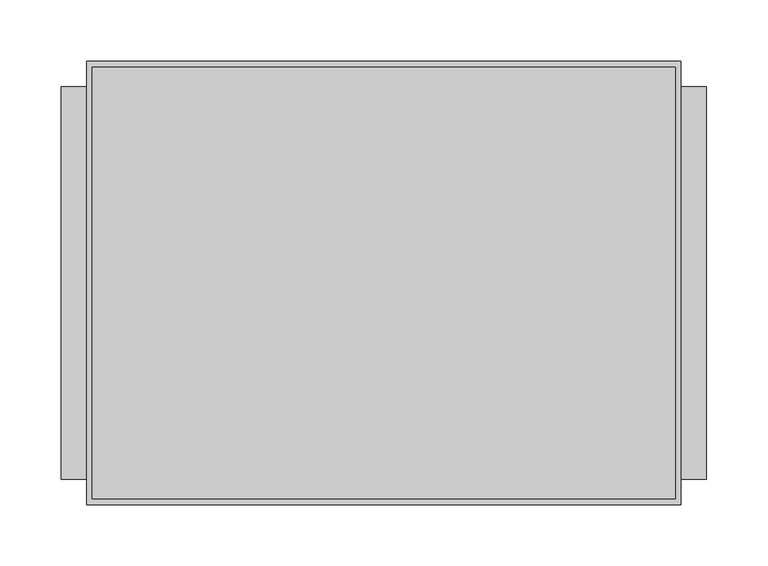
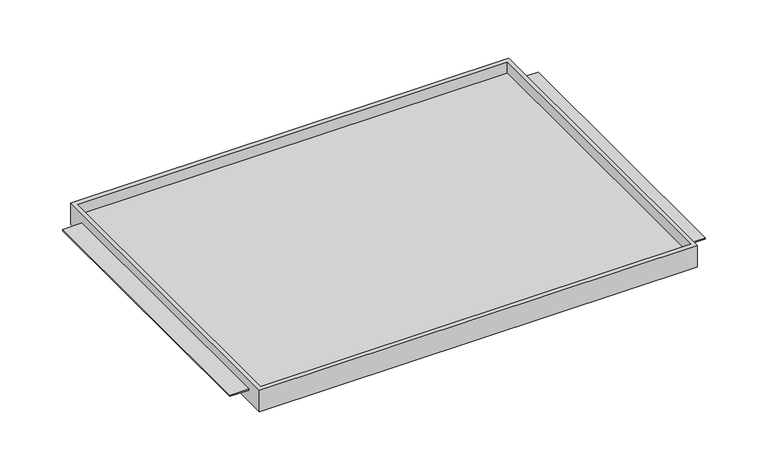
"""IFC4 building model written with IfcOpenShell, lengths in millimetres: furniture geometry."""

from ifc_helpers import new_model, si_unit, origin, place, context, project, spatial, faceted_brep, source, transform, mapped, element, save


def furniture_d3b70592(model_context):
    return source(origin(), model_context, "Body", "Brep", [
        faceted_brep([(-242.7689646, -180.975, 1524.0), (242.7689646, -180.975, 1524.0), (242.7689646, -180.975, 1549.4), (-242.7689646, -180.975, 1549.4), (-242.7689646, 180.975, 1524.0), (-242.7689646, 180.975, 1549.4), (242.7689646, 180.975, 1549.4), (242.7689646, 180.975, 1524.0), (242.7689646, -160.3374879, 1538.3002), (242.7689646, 160.3374879, 1538.3002), (242.7689646, 160.3374879, 1536.7), (242.7689646, -160.3374879, 1536.7), (238.125, -176.2125, 1549.4), (-238.125, -176.2125, 1549.4), (-238.125, 175.91278, 1549.4), (238.125, 175.91278, 1549.4), (-242.7689646, 160.3374879, 1538.3002), (-242.7689646, -160.3374879, 1538.3002), (-242.7689646, -160.3374879, 1536.7), (-242.7689646, 160.3374879, 1536.7), (-238.125, -176.2125, 1536.7), (238.125, -176.2125, 1536.7), (238.125, 175.91278, 1536.7), (-238.125, 175.91278, 1536.7), (-263.525, 160.3374879, 1538.3002), (-263.525, -160.3374879, 1538.3002), (263.525, -160.3374879, 1538.3002), (263.525, 160.3374879, 1538.3002), (-263.525, -160.3374879, 1536.7), (-263.525, 160.3374879, 1536.7), (263.525, -160.3374879, 1536.7), (263.525, 160.3374879, 1536.7)], [[[0, 1, 2, 3]], [[4, 5, 6, 7]], [[1, 0, 4, 7]], [[2, 1, 7, 6], [8, 9, 10, 11]], [[3, 2, 6, 5], [12, 13, 14, 15]], [[0, 3, 5, 4], [16, 17, 18, 19]], [[20, 21, 22, 23]], [[21, 20, 13, 12]], [[22, 21, 12, 15]], [[23, 22, 15, 14]], [[20, 23, 14, 13]], [[16, 24, 25, 17]], [[26, 27, 9, 8]], [[18, 28, 29, 19]], [[30, 11, 10, 31]], [[24, 16, 19, 29]], [[25, 24, 29, 28]], [[17, 25, 28, 18]], [[27, 26, 30, 31]], [[9, 27, 31, 10]], [[26, 8, 11, 30]]]),
    ])


if __name__ == "__main__":
    model = new_model("IFC4")
    model_context = context("Model", 3, world=origin())
    ifc_project = project(units=[si_unit("LENGTHUNIT", "METRE", prefix="MILLI")], contexts=[model_context])
    site = spatial("IfcSite", under=ifc_project)
    building = spatial("IfcBuilding", under=site)
    placement = place(None, origin())
    furniture_shape = furniture_d3b70592(model_context)
    element("IfcFurniture", 1, ObjectType="HermanMiller_CoStruc_CO203_CTrayShelf : 14\"D x 20\"W", at=placement, inside=building, context=model_context, shape_type="MappedRepresentation", body=[
        mapped(furniture_shape, transform((0.0, 0.0, 0.0), x_axis=(1.0, 0.0, 0.0), y_axis=(0.0, 1.0, 0.0), z_axis=(0.0, 0.0, 1.0))),
    ])
    save(model, "model.ifc")
